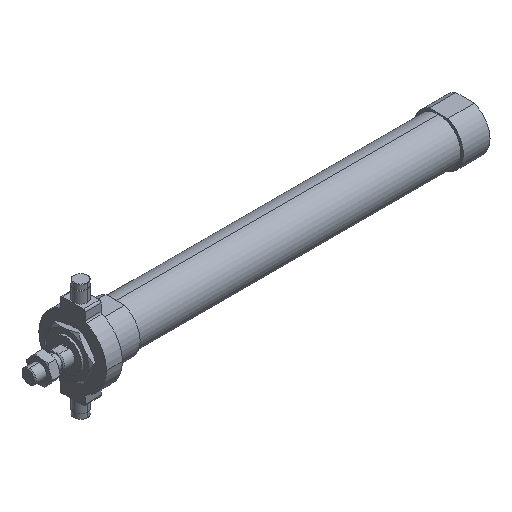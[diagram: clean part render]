
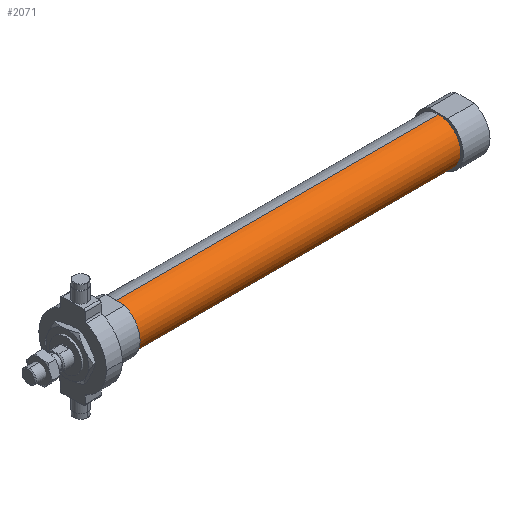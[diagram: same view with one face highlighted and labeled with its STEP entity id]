
A CAD part, isometric view. The second image highlights one B-rep face of the part: STEP entity #2071.
In plain terms, the highlighted cylindrical face has radius 12.5 mm (diameter 25 mm), a partial arc.
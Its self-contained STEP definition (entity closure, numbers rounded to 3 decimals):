
#16 = DIRECTION ( 'NONE',  ( -1., 0., 0. ) ) ;
#208 = CARTESIAN_POINT ( 'NONE',  ( 49., 0., 0. ) ) ;
#218 = DIRECTION ( 'NONE',  ( 0., 0., 1. ) ) ;
#226 = EDGE_LOOP ( 'NONE', ( #1656, #3158, #2265, #2110 ) ) ;
#398 = VERTEX_POINT ( 'NONE', #2924 ) ;
#595 = VERTEX_POINT ( 'NONE', #962 ) ;
#880 = VERTEX_POINT ( 'NONE', #3209 ) ;
#962 = CARTESIAN_POINT ( 'NONE',  ( 231., 0., 12.5 ) ) ;
#1197 = CARTESIAN_POINT ( 'NONE',  ( -6.469, 0., 0. ) ) ;
#1201 = CYLINDRICAL_SURFACE ( 'NONE', #1583, 12.5 ) ;
#1409 = VECTOR ( 'NONE', #1990, 1000. ) ;
#1499 = LINE ( 'NONE', #3127, #4028 ) ;
#1502 = DIRECTION ( 'NONE',  ( -1., 0., 0. ) ) ;
#1583 = AXIS2_PLACEMENT_3D ( 'NONE', #1197, #1502, #3804 ) ;
#1656 = ORIENTED_EDGE ( 'NONE', *, *, #4154, .F. ) ;
#1658 = EDGE_CURVE ( 'NONE', #595, #880, #3671, .T. ) ;
#1854 = AXIS2_PLACEMENT_3D ( 'NONE', #4300, #16, #2643 ) ;
#1990 = DIRECTION ( 'NONE',  ( -1., 0., 0. ) ) ;
#2071 = ADVANCED_FACE ( 'NONE', ( #2390 ), #1201, .T. ) ;
#2110 = ORIENTED_EDGE ( 'NONE', *, *, #4211, .F. ) ;
#2265 = ORIENTED_EDGE ( 'NONE', *, *, #1658, .T. ) ;
#2390 = FACE_OUTER_BOUND ( 'NONE', #226, .T. ) ;
#2643 = DIRECTION ( 'NONE',  ( 0., 0., 1. ) ) ;
#2924 = CARTESIAN_POINT ( 'NONE',  ( 49., 0., -12.5 ) ) ;
#2940 = CIRCLE ( 'NONE', #3523, 12.5 ) ;
#3109 = DIRECTION ( 'NONE',  ( -1., 0., 0. ) ) ;
#3127 = CARTESIAN_POINT ( 'NONE',  ( -6.469, 0., -12.5 ) ) ;
#3135 = CARTESIAN_POINT ( 'NONE',  ( 231., 0., -12.5 ) ) ;
#3158 = ORIENTED_EDGE ( 'NONE', *, *, #3742, .T. ) ;
#3209 = CARTESIAN_POINT ( 'NONE',  ( 49., 0., 12.5 ) ) ;
#3523 = AXIS2_PLACEMENT_3D ( 'NONE', #208, #4210, #218 ) ;
#3634 = CARTESIAN_POINT ( 'NONE',  ( -6.469, 0., 12.5 ) ) ;
#3658 = CIRCLE ( 'NONE', #1854, 12.5 ) ;
#3671 = LINE ( 'NONE', #3634, #1409 ) ;
#3729 = VERTEX_POINT ( 'NONE', #3135 ) ;
#3742 = EDGE_CURVE ( 'NONE', #3729, #595, #3658, .T. ) ;
#3804 = DIRECTION ( 'NONE',  ( 0., 0., 1. ) ) ;
#4028 = VECTOR ( 'NONE', #3109, 1000. ) ;
#4154 = EDGE_CURVE ( 'NONE', #3729, #398, #1499, .T. ) ;
#4210 = DIRECTION ( 'NONE',  ( -1., 0., 0. ) ) ;
#4211 = EDGE_CURVE ( 'NONE', #398, #880, #2940, .T. ) ;
#4300 = CARTESIAN_POINT ( 'NONE',  ( 231., 0., 0. ) ) ;
